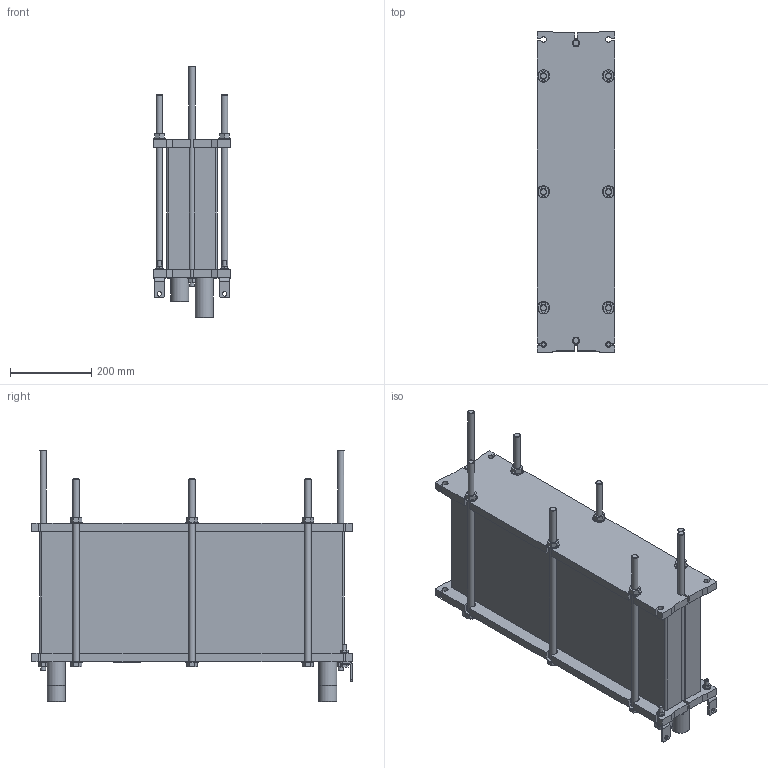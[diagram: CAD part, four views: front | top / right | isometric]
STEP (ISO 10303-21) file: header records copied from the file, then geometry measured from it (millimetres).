
FILE_DESCRIPTION((''),'2;1');
FILE_NAME('C:\temp\TL3_FG_LC500_01_Rev0.stp','2009-09-07T16:01:35',('CNSHFLU'),(''),'Autodesk Inventor 2008','Autodesk Inventor 2008','');
FILE_SCHEMA(('AUTOMOTIVE_DESIGN { 1 2 10303 214 0 1 1 1 }'));
Length unit declared in the file: millimetre
Products named in the file (1): TL3
Bounding box: 190 x 790 x 619 mm (x, y, z)
Volume: 33790647.9 mm3; surface area: 1422805.5 mm2
Topology: 1 solids, 1 shells, 793 faces, 2161 edges, 1424 vertices
Faces by surface type: plane 559, cylinder 220, cone 14
Full cylindrical faces by diameter (mm): 2.646 x4, 10 x4, 11 x4, 12 x2, 16 x14, 20 x4, 24 x2, 30 x16, 40 x4, 44 x4
Entity records: 24479 total; most frequent: CARTESIAN_POINT 4243, DIRECTION 4127, ORIENTED_EDGE 4114, EDGE_CURVE 2057, VECTOR 1575, LINE 1575, VERTEX_POINT 1392, AXIS2_PLACEMENT_3D 1276
